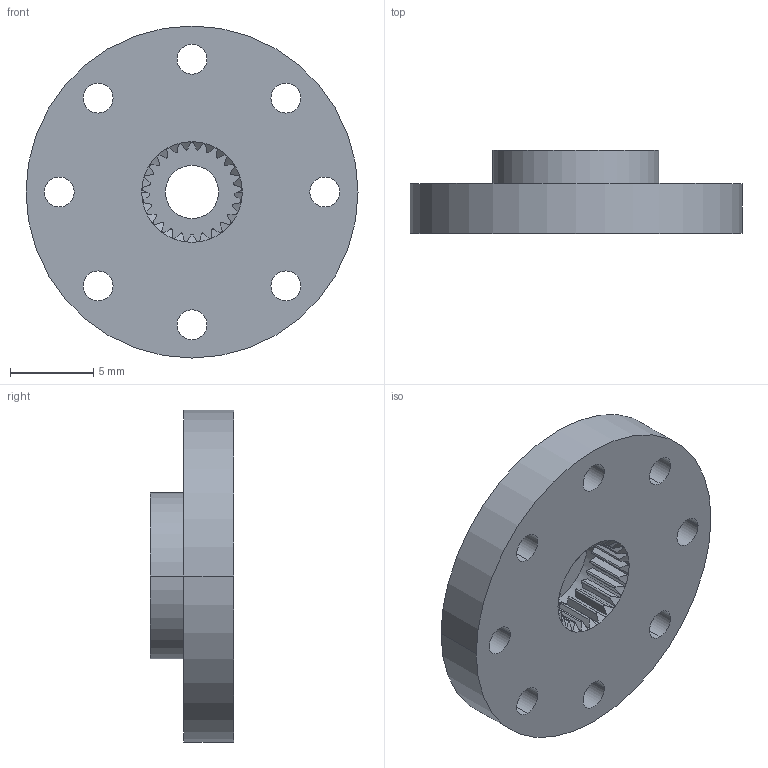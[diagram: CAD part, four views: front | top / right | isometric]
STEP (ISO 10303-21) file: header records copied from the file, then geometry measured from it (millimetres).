
FILE_DESCRIPTION (( 'STEP AP203' ), '1' );
FILE_NAME ('华馨京 25-50kg舵机系列主舵盘-3D.STEP', '2026-04-02T06:18:14', ( '' ), ( '' ), 'SwSTEP 2.0', 'SolidWorks 2021', '' );
FILE_SCHEMA (( 'CONFIG_CONTROL_DESIGN' ));
Length unit declared in the file: millimetre
Products named in the file (1): 华馨京 25-50kg舵机系列主舵盘-3D
Bounding box: 20 x 5 x 20 mm (x, y, z)
Volume: 937.5 mm3; surface area: 1076.2 mm2
Topology: 1 solids, 1 shells, 130 faces, 378 edges, 252 vertices
Faces by surface type: plane 79, cylinder 49, cone 2
Entity records: 4669 total; most frequent: CARTESIAN_POINT 1144, ORIENTED_EDGE 756, DIRECTION 688, EDGE_CURVE 378, AXIS2_PLACEMENT_3D 256, VERTEX_POINT 252, LINE 176, VECTOR 176
